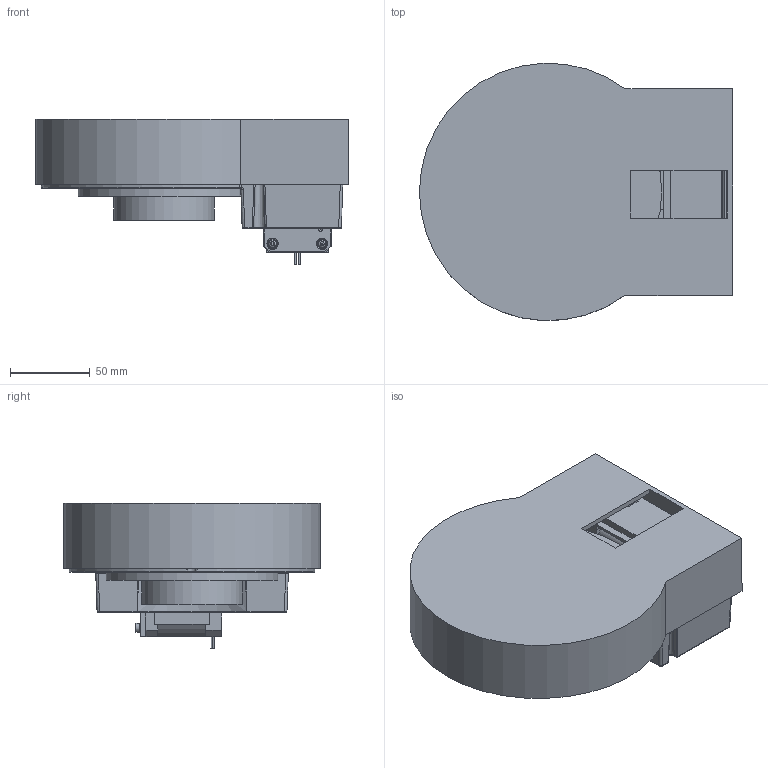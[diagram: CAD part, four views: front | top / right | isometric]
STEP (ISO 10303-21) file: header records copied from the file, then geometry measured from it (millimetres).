
FILE_DESCRIPTION(/* description */ ('Unknown'),/* implementation_level */ '2;1');
FILE_NAME(/* name */ 'LX200 DEC ASM',/* time_stamp */ '2024-04-02T16:42:37-04:00',/* author */ ('Unknown'),/* organization */ ('Unknown'),/* preprocessor_version */ 'ST-DEVELOPER v16.7',/* originating_system */ 'DEX',/* authorisation */ $);
FILE_SCHEMA (('AUTOMOTIVE_DESIGN {1 0 10303 214 3 1 1}'));
Products named in the file (11): _DEC ASM; DEC Cover; GT2_48T_0.25_6; 8-32_Socket Head; GT2-12T-5-6; 3mm_Socket Head Screw; 4-40_Hex Flat Head Screw; 17HM19-1684D; DEC Holder; DEC BASE; DEC WORM
Assembly tree (17 placements, depth 2):
  _DEC ASM
    DEC Cover
    GT2_48T_0.25_6
    8-32_Socket Head  x2
    GT2-12T-5-6
    3mm_Socket Head Screw  x4
    4-40_Hex Flat Head Screw  x4
    17HM19-1684D
    DEC Holder
    DEC BASE
    DEC WORM
Bounding box: 195.77 x 160.83 x 91.18 mm (x, y, z)
Volume: 660731 mm3; surface area: 252762.6 mm2
Topology: 19 solids, 19 shells, 1764 faces, 5237 edges, 3668 vertices
Faces by surface type: plane 730, cylinder 606, cone 316, bspline 56, torus 33, sphere 23
Full cylindrical faces by diameter (mm): 1.126 x4, 2.05 x4, 2.2 x2, 2.243 x2, 2.439 x2, 2.486 x2, 2.5 x4, 2.755 x1, 2.769 x4, 3 x2, 3.103 x1, 3.264 x4, 4 x2, 4.445 x2, 4.6 x4, 5 x3, 5.5 x4, 5.6 x2, 6 x4, 6.325 x1, 6.375 x1, 6.477 x4, 6.858 x2, 7 x2, 9.525 x1, 10 x2, 11.7 x1, 12.192 x1, 12.7 x1, 20 x1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
Entity records: 55080 total; most frequent: CARTESIAN_POINT 17272, DIRECTION 7140, ORIENTED_EDGE 7094, EDGE_CURVE 3547, AXIS2_PLACEMENT_3D 2663, VERTEX_POINT 2473, LINE 1814, VECTOR 1814
